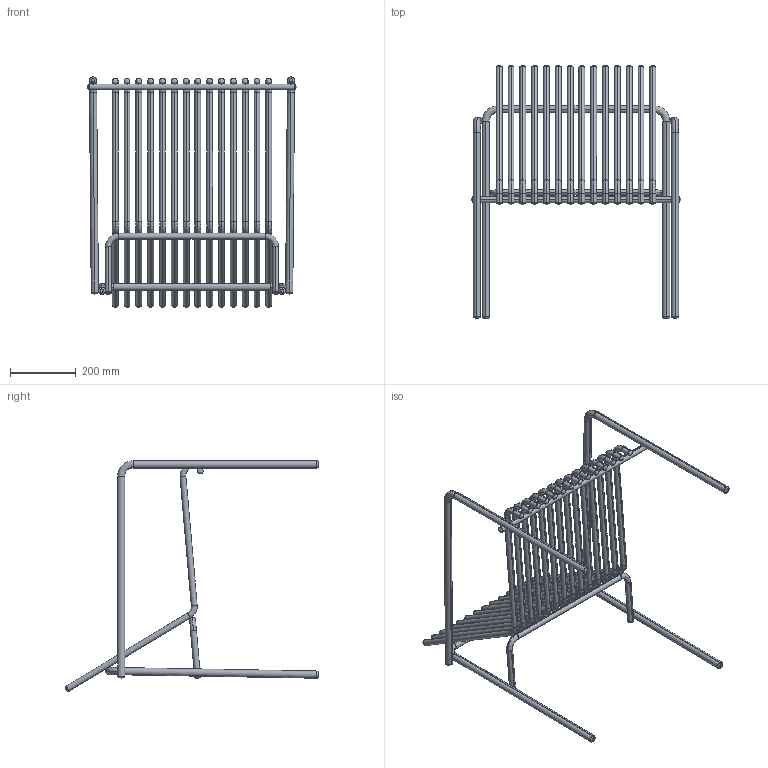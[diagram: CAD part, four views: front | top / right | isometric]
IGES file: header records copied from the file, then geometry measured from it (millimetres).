
Start section: 3D InterOp IGES (v. 2021 1.0.1), Spatial Corp. Copyright (c) 1999-2020.
Global section: file name: 20211108_Sedia AMALFI Lounge.igs; native system: Spatial Corp.; preprocessor: 3D InterOp GENERIC/IGES 3.0; author: Noname; organization: Noname; date: 20220316.133515; units: millimetre
Bounding box: 637 x 771.58 x 702.07 mm (x, y, z)
Surface area: 2106069.6 mm2 (no closed solid volume)
Topology: 0 solids, 0 shells, 594 faces, 2304 edges, 2288 vertices
Faces by surface type: revolution 514, extrusion 80
